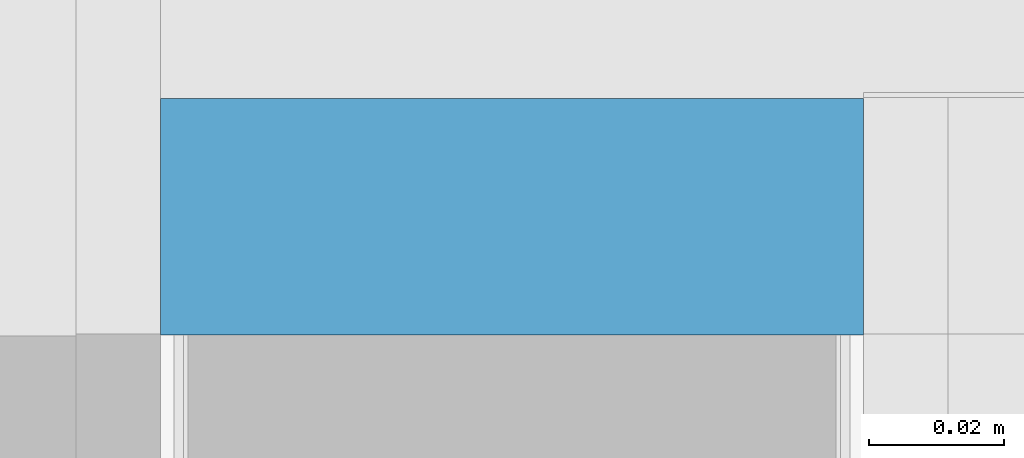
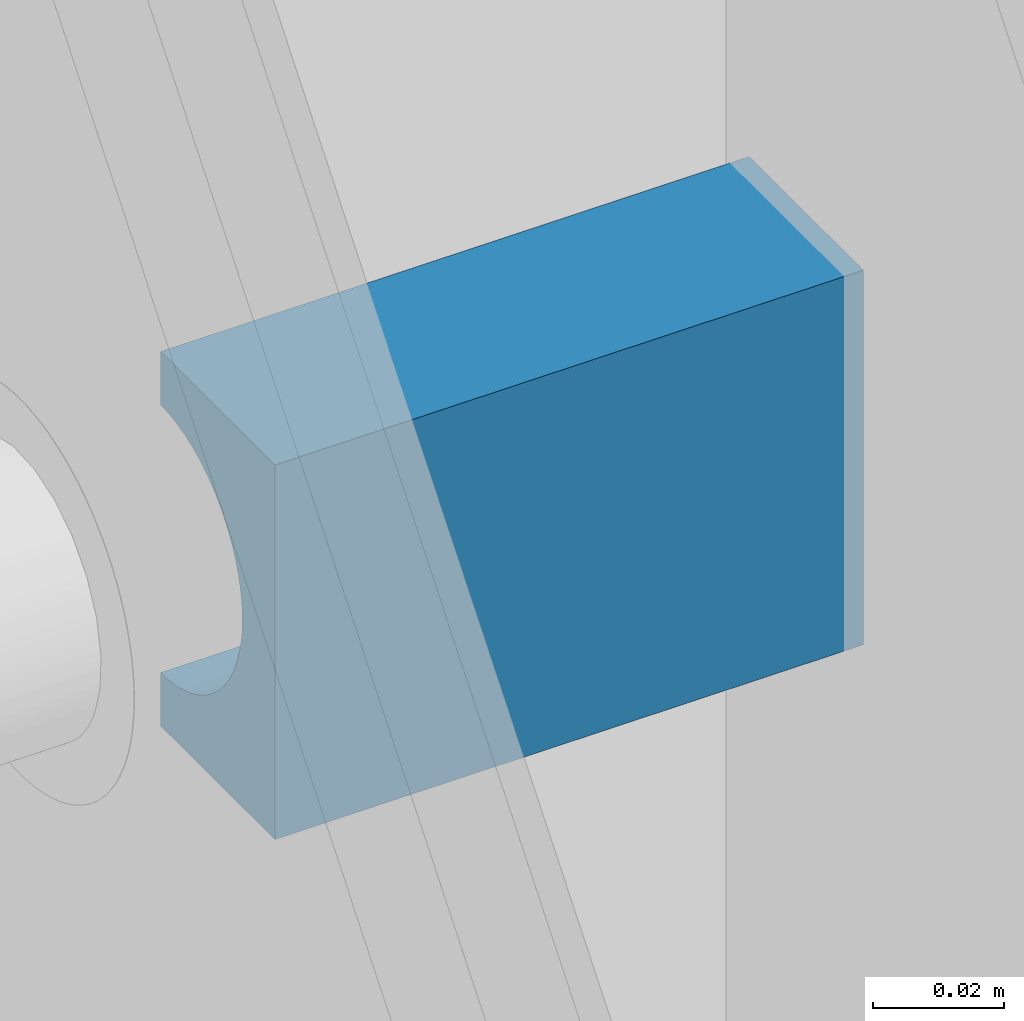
# One storey, part 7 of 92: 1 wall.
"""IFC2X3 building model written with IfcOpenShell, lengths in millimetres."""

import ifcopenshell
import ifcopenshell.guid

model = None  # the IFC model being written
_history = None  # IfcOwnerHistory: only IFC2X3 demands one
_inside = {}  # id of a spatial element -> (the spatial element, [elements in it])
_under = {}  # id of a project, library or spatial element -> (it, [spatial elements below it])
_declared = {}  # id of a project -> (the project, [libraries it declares])
_typed = {}  # id of a type object -> (the type object, [elements of that type])
_made_of = {}  # id of a material, layer set ... -> (it, [elements and type objects made of it])


def new_model(schema):
    """Start an empty IFC model of exactly this schema.

    Asked for "IFC4X3", IfcOpenShell would pick the latest addendum, in which some entities
    have other attributes; the version numbers below select the first issue.
    IFC2X3 requires an IfcOwnerHistory on every rooted entity: one is made here for all.
    """
    global model, _history
    if schema == "IFC4X3":
        model = ifcopenshell.file(schema_version=(4, 3, 0, 0))
    else:
        model = ifcopenshell.file(schema=schema)
    _inside.clear()
    _under.clear()
    _declared.clear()
    _typed.clear()
    _made_of.clear()
    _history = None
    if model.schema == "IFC2X3":
        org = make("IfcOrganization", Name="unknown")
        user = make(
            "IfcPersonAndOrganization",
            ThePerson=make("IfcPerson", FamilyName="unknown"),
            TheOrganization=org,
        )
        app = make(
            "IfcApplication",
            ApplicationDeveloper=org,
            Version="unknown",
            ApplicationFullName="unknown",
            ApplicationIdentifier="unknown",
        )
        _history = make(
            "IfcOwnerHistory",
            OwningUser=user,
            OwningApplication=app,
            ChangeAction="ADDED",
            CreationDate=0,
        )
    return model


def make(cls, **values):
    """One entity of the class cls with the attributes given. An attribute that is None is left unset."""
    return model.create_entity(
        cls, **{name: value for name, value in values.items() if value is not None}
    )


def rooted(cls, **values):
    """An entity with a GlobalId (a new one), such as an element, a storey or a relation."""
    return make(cls, GlobalId=ifcopenshell.guid.new(), OwnerHistory=_history, **values)


def si_unit(unit_type, name, prefix=None):
    """IfcSIUnit, for example si_unit("LENGTHUNIT", "METRE", prefix="MILLI")."""
    return make("IfcSIUnit", UnitType=unit_type, Prefix=prefix, Name=name)


def assignment(units):
    """IfcUnitAssignment: the units of a project."""
    return None if units is None else make("IfcUnitAssignment", Units=units)


def point(xyz):
    """IfcCartesianPoint."""
    return None if xyz is None else make("IfcCartesianPoint", Coordinates=xyz)


def direction(xyz):
    """IfcDirection."""
    return None if xyz is None else make("IfcDirection", DirectionRatios=xyz)


def frame(location, z_axis=None, x_axis=None):
    """IfcAxis2Placement3D, a coordinate frame: its origin and axes. An axis left out is left unset."""
    return make(
        "IfcAxis2Placement3D",
        Location=point(location),
        Axis=direction(z_axis),
        RefDirection=direction(x_axis),
    )


def origin_with_axes():
    """The frame at (0, 0, 0) with the z axis (0, 0, 1) and the x axis (1, 0, 0) written out."""
    return frame((0.0, 0.0, 0.0), z_axis=(0.0, 0.0, 1.0), x_axis=(1.0, 0.0, 0.0))


def place(relative_to, where):
    """IfcLocalPlacement: puts the frame where relative to a parent placement (None: the world)."""
    return make(
        "IfcLocalPlacement", PlacementRelTo=relative_to, RelativePlacement=where
    )


def context(
    kind, dimensions, precision=None, world=None, true_north=None, identifier=None
):
    """IfcGeometricRepresentationContext, for example the 3D "Model" context."""
    return make(
        "IfcGeometricRepresentationContext",
        ContextIdentifier=identifier,
        ContextType=kind,
        CoordinateSpaceDimension=dimensions,
        Precision=precision,
        WorldCoordinateSystem=world,
        TrueNorth=true_north,
    )


def subcontext(parent, identifier, kind, view, scale=None):
    """IfcGeometricRepresentationSubContext, for example "Body" below "Model"."""
    return make(
        "IfcGeometricRepresentationSubContext",
        ContextIdentifier=identifier,
        ContextType=kind,
        ParentContext=parent,
        TargetScale=scale,
        TargetView=view,
    )


def project(units=None, contexts=None):
    """IfcProject with its units and contexts."""
    return rooted(
        "IfcProject",
        Name="project",
        RepresentationContexts=contexts,
        UnitsInContext=assignment(units),
    )


def spatial(cls, under=None, at=None, **own):
    """A site, building, storey or space (cls), placed at a placement, below another one or the project."""
    s = rooted(cls, ObjectPlacement=at, **own)
    if under is not None:
        _under.setdefault(under.id(), (under, []))[1].append(s)
    return s


def faces_of(points, faces, orient=None, outer=None):
    """IfcFace entities. A face is a list of loops; a loop is a list of indices into points, from 0.

    orient and outer hold one flag for each loop. By default every Orientation is true, the
    first loop of a face is its IfcFaceOuterBound and the others are IfcFaceBound.
    """
    made = []
    for i, loops in enumerate(faces):
        bounds = []
        for j, loop in enumerate(loops):
            is_outer = j == 0 if outer is None else outer[i][j]
            bounds.append(
                make(
                    "IfcFaceOuterBound" if is_outer else "IfcFaceBound",
                    Bound=make("IfcPolyLoop", Polygon=[points[k] for k in loop]),
                    Orientation=True if orient is None else orient[i][j],
                )
            )
        made.append(make("IfcFace", Bounds=bounds))
    return made


def faceted_brep(points, faces, orient=None, outer=None, voids=None):
    """IfcFacetedBrep: a solid bounded by flat faces; with voids (closed shells), ...WithVoids."""
    shared = [point(p) for p in points]
    hull = make("IfcClosedShell", CfsFaces=faces_of(shared, faces, orient, outer))
    if voids is None:
        return make("IfcFacetedBrep", Outer=hull)
    return make(
        "IfcFacetedBrepWithVoids",
        Outer=hull,
        Voids=[
            make(cls, CfsFaces=faces_of(shared, fs, o, b)) for cls, fs, o, b in voids
        ],
    )


def shape(context_of_items, identifier, shape_type, items):
    """IfcShapeRepresentation: the items that make up one representation, for example the "Body"."""
    return make(
        "IfcShapeRepresentation",
        ContextOfItems=context_of_items,
        RepresentationIdentifier=identifier,
        RepresentationType=shape_type,
        Items=items,
    )


def material(Name=None, Category=None):
    """IfcMaterial."""
    return make("IfcMaterial", Name=Name, Category=Category)


def made_of(thing, what):
    """Note that an element or type object is made of a material, layer set ...; save() writes the relation."""
    if what is not None:
        _made_of.setdefault(what.id(), (what, []))[1].append(thing)
    return thing


def type_object(cls, material=None, **own):
    """A type object (cls), such as IfcWallType, which elements share."""
    return made_of(rooted(cls, **own), material)


def element(
    cls,
    number,
    at=None,
    inside=None,
    cuts=None,
    type_object=None,
    material=None,
    context=None,
    identifier="Body",
    shape_type=None,
    held_by="IfcProductDefinitionShape",
    body=None,
    shapes=None,
    **own,
):
    """One element of the class cls, such as IfcWall. Its Tag is "e" and its number.

    at: its placement. inside: the storey or other place that contains it. cuts: it is an
    opening in that element (IfcRelVoidsElement). A single representation is given by context,
    identifier, shape_type and body (its items); several are given by shapes. held_by: the class
    of the entity that holds the representations. save() writes the other relations.
    """
    e = rooted(cls, Tag="e%d" % number, ObjectPlacement=at, **own)
    if body is not None:
        shapes = [shape(context, identifier, shape_type, body)]
    if shapes is not None:
        e.Representation = make(held_by, Representations=shapes)
    if inside is not None:
        _inside.setdefault(inside.id(), (inside, []))[1].append(e)
    if cuts is not None:
        rooted(
            "IfcRelVoidsElement", RelatingBuildingElement=cuts, RelatedOpeningElement=e
        )
    if type_object is not None:
        _typed.setdefault(type_object.id(), (type_object, []))[1].append(e)
    return made_of(e, material)


def aggregate(whole, parts):
    """IfcRelAggregates: a whole, such as a stair, and the parts it consists of."""
    return rooted("IfcRelAggregates", RelatingObject=whole, RelatedObjects=parts)


def save(model, path):
    """Write the relations noted so far, then the file.

    IfcRelAggregates (storeys below a building ...), IfcRelContainedInSpatialStructure (elements
    in a storey), IfcRelDefinesByType, IfcRelAssociatesMaterial and IfcRelDeclares: one each for
    every whole, place, type object, material and project.
    """
    for whole, parts in _under.values():
        aggregate(whole, parts)
    for where, things in _inside.values():
        rooted(
            "IfcRelContainedInSpatialStructure",
            RelatedElements=things,
            RelatingStructure=where,
        )
    for kind, things in _typed.values():
        rooted("IfcRelDefinesByType", RelatedObjects=things, RelatingType=kind)
    for what, things in _made_of.values():
        rooted("IfcRelAssociatesMaterial", RelatedObjects=things, RelatingMaterial=what)
    for by, libraries in _declared.values():
        rooted("IfcRelDeclares", RelatingContext=by, RelatedDefinitions=libraries)
    model.write(path)


model = new_model("IFC2X3")

# Units and contexts
model_context = context("Model", 3, world=origin_with_axes())
body_context = subcontext(model_context, "Body", "Model", "MODEL_VIEW")
ifc_project = project(units=[si_unit("LENGTHUNIT", "METRE", prefix="MILLI"), si_unit("AREAUNIT", "SQUARE_METRE"), si_unit("VOLUMEUNIT", "CUBIC_METRE")], contexts=[model_context])

# Site, building, storey
site_placement = place(None, origin_with_axes())
site = spatial("IfcSite", under=ifc_project, at=site_placement, Name="Default Site", CompositionType="ELEMENT")
building_placement = place(site_placement, origin_with_axes())
building = spatial("IfcBuilding", under=site, at=building_placement, Name="Default Building", CompositionType="ELEMENT")
storey_placement = place(building_placement, origin_with_axes())
storey = spatial("IfcBuildingStorey", under=building, at=storey_placement, Name="Default Building Storey", CompositionType="ELEMENT", Elevation=0.0)

# Wall
ifc_material = material(Name="D02_Buttercup_Glow")
wall_type = type_object("IfcWallType", Name="Uszczelnienie wełną mineralną ISOVER#2", PredefinedType="NOTDEFINED")
wall_placement = place(storey_placement, frame((421.0076361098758, 970.2062754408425, 570.0622550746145), z_axis=(0.0, 0.0, 1.0), x_axis=(-4.718447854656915e-16, 1.0, 0.0)))
element("IfcWall", 1, at=wall_placement, inside=storey, type_object=wall_type, material=ifc_material, Name="Uszczelnienie wełną mineralną ISOVER", context=body_context, shape_type="Brep", body=[
    faceted_brep([(60.54772242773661, 292.00000018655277, 36.86321943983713), (60.547775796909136, 396.0000025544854, 36.863214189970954), (62.018610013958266, 396.0000025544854, 36.31476059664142), (62.01855664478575, 292.00000018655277, 36.3147658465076), (59.1142282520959, 292.00000018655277, 37.50294522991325), (59.11428162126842, 396.0000025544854, 37.502939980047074), (57.723731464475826, 292.00000018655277, 38.231418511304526), (57.72378483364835, 396.0000025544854, 38.23141326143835), (56.3817197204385, 292.00000018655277, 39.04576433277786), (56.38177308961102, 396.0000025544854, 39.04575908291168), (55.09348932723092, 292.00000018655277, 39.9427688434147), (55.09354269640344, 396.0000025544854, 39.94276359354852), (53.8641243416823, 292.00000018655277, 40.91889197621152), (53.86417771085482, 396.0000025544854, 40.91888672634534), (52.69847650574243, 292.00000018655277, 41.970281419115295), (52.69852987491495, 396.0000025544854, 41.97027616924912), (51.6011460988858, 292.00000018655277, 43.09278781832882), (51.601199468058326, 396.0000025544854, 43.092782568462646), (50.57646378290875, 292.00000018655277, 44.281981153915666), (50.57651715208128, 396.0000025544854, 44.28197590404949), (49.62847351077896, 292.00000018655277, 45.53316822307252), (49.62852687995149, 396.0000025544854, 45.533162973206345), (48.760916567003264, 292.00000018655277, 46.841411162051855), (48.76096993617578, 396.0000025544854, 46.84140591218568), (47.977216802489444, 292.00000018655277, 48.201546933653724), (47.97727017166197, 396.0000025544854, 48.201541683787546), (47.2804671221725, 292.00000018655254, 49.60820770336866), (47.28052049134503, 396.0000025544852, 49.608202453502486), (46.67341727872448, 292.00000018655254, 51.0558420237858), (46.673470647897, 396.0000025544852, 51.05583677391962), (46.15846302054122, 292.00000018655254, 52.53873674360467), (46.15851638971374, 396.0000025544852, 52.538731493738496), (45.737636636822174, 292.00000018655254, 54.05103955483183), (45.7376900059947, 396.0000025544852, 54.051034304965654), (45.412598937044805, 292.00000018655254, 55.58678208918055), (45.412652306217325, 396.0000025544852, 55.586776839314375), (45.18463269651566, 292.00000018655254, 57.1399034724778), (45.18468606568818, 396.0000025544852, 57.13989822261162), (45.054637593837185, 292.00000018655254, 58.704274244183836), (45.054690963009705, 396.0000025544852, 58.70426899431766), (45.02312666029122, 292.00000018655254, 60.273720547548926), (45.023180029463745, 396.0000025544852, 60.27371529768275), (45.090224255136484, 292.00000018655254, 61.84204849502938), (45.09027762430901, 396.0000025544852, 61.842043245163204), (45.25566557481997, 292.00000018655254, 63.40306861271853), (45.25571894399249, 396.0000025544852, 63.40306336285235), (45.51879769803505, 292.00000018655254, 64.9506202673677), (45.51885106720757, 396.0000025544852, 64.95061501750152), (45.87858216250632, 292.00000018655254, 66.47859597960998), (45.87863553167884, 396.0000025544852, 66.4785907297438), (46.33359906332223, 292.00000018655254, 67.98096552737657), (46.33365243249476, 396.0000025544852, 67.98096027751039), (46.88205265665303, 292.00000018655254, 69.45179974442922), (46.88210602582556, 396.0000025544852, 69.45179449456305), (47.52177844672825, 292.00000018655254, 70.88529392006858), (47.521831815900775, 396.0000025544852, 70.8852886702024), (48.25025172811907, 292.00000018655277, 72.27579070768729), (48.250305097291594, 396.0000025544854, 72.27578545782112), (49.064597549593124, 292.00000018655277, 73.61780245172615), (49.06465091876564, 396.0000025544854, 73.61779720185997), (49.96160206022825, 292.00000018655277, 74.9060328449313), (49.96165542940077, 396.0000025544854, 74.90602759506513), (50.93772519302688, 292.00000018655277, 76.13539783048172), (50.9377785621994, 396.0000025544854, 76.13539258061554), (51.989114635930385, 292.00000018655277, 77.30104566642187), (51.989168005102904, 396.0000025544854, 77.3010404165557), (53.11162103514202, 292.00000018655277, 78.39837607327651), (53.11167440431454, 396.0000025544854, 78.39837082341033), (54.30081437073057, 292.00000018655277, 79.42305838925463), (54.3008677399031, 396.0000025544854, 79.42305313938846), (55.5520014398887, 292.00000018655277, 80.37104866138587), (55.55205480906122, 396.0000025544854, 80.3710434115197), (56.86024437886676, 292.00000018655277, 81.23860560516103), (56.86029774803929, 396.0000025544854, 81.23860035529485), (58.22038015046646, 292.00000018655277, 82.02230536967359), (58.22043351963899, 396.0000025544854, 82.02230011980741), (59.62704092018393, 292.00000018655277, 82.71905504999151), (59.62709428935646, 396.0000025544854, 82.71904980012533), (61.07467524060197, 292.00000018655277, 83.32610489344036), (61.074728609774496, 396.0000025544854, 83.32609964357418), (62.55756996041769, 292.00000018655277, 83.84105915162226), (62.55762332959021, 396.0000025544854, 83.84105390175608), (64.06987277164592, 292.00000018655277, 84.26188553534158), (64.06992614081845, 396.0000025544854, 84.2618802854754), (65.60561530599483, 292.00000018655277, 84.58692323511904), (65.60566867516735, 396.0000025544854, 84.58691798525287), (67.15873668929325, 292.00000018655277, 84.81488947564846), (67.15879005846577, 396.0000025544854, 84.81488422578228), (68.72310746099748, 292.00000018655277, 84.94488457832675), (68.72316083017, 396.0000025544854, 84.94487932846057), (70.00917769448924, 292.00000018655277, 84.97070596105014), (70.00923106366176, 396.0000025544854, 84.97070071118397), (68.157473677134, 292.00000018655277, 35.071391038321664), (68.15752704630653, 396.0000025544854, 35.07138578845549), (69.72585499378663, 396.0000025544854, 35.004288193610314), (69.7258016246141, 292.00000018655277, 35.00429344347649), (66.59645355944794, 292.00000018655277, 35.23683235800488), (66.59650692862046, 396.0000025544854, 35.236827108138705), (65.04890190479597, 292.00000018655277, 35.49996448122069), (65.04895527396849, 396.0000025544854, 35.49995923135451), (63.52092619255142, 292.00000018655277, 35.859748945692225), (63.52097956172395, 396.0000025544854, 35.85974369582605), (70.00923106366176, 396.0000025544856, 35.00997774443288), (70.00917769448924, 292.00000018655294, 35.00998299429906), (35.01883321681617, 292.00000018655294, 94.98712912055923), (35.018886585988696, 396.00000255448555, 94.98712387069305), (70.00923106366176, 396.0000025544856, 94.98712387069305), (70.00917769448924, 292.00000018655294, 94.98712912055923), (35.01883321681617, 292.00000018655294, 25.000000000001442), (35.018886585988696, 396.00000255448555, 24.999994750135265), (70.00923106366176, 396.0000025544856, 24.999994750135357), (70.00917769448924, 292.00000018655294, 25.000000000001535)], [[[0, 1, 2, 3]], [[4, 5, 1, 0]], [[6, 7, 5, 4]], [[8, 9, 7, 6]], [[10, 11, 9, 8]], [[12, 13, 11, 10]], [[14, 15, 13, 12]], [[16, 17, 15, 14]], [[18, 19, 17, 16]], [[20, 21, 19, 18]], [[22, 23, 21, 20]], [[24, 25, 23, 22]], [[26, 27, 25, 24]], [[28, 29, 27, 26]], [[30, 31, 29, 28]], [[32, 33, 31, 30]], [[34, 35, 33, 32]], [[36, 37, 35, 34]], [[38, 39, 37, 36]], [[40, 41, 39, 38]], [[42, 43, 41, 40]], [[44, 45, 43, 42]], [[46, 47, 45, 44]], [[48, 49, 47, 46]], [[50, 51, 49, 48]], [[52, 53, 51, 50]], [[54, 55, 53, 52]], [[56, 57, 55, 54]], [[58, 59, 57, 56]], [[60, 61, 59, 58]], [[62, 63, 61, 60]], [[64, 65, 63, 62]], [[66, 67, 65, 64]], [[68, 69, 67, 66]], [[70, 71, 69, 68]], [[72, 73, 71, 70]], [[74, 75, 73, 72]], [[76, 77, 75, 74]], [[78, 79, 77, 76]], [[80, 81, 79, 78]], [[82, 83, 81, 80]], [[84, 85, 83, 82]], [[86, 87, 85, 84]], [[88, 89, 87, 86]], [[90, 91, 89, 88]], [[92, 93, 94, 95]], [[96, 97, 93, 92]], [[98, 99, 97, 96]], [[100, 101, 99, 98]], [[3, 2, 101, 100]], [[95, 94, 102, 103]], [[104, 105, 106, 107]], [[108, 109, 110, 111]], [[104, 105, 109, 108]]]),
    faceted_brep([(35.01883321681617, 292.00000018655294, 25.000000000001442), (70.00917769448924, 292.00000018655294, 25.000000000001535), (70.00917769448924, 292.00000018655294, 35.00998299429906), (69.7258016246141, 292.00000018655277, 35.00429344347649), (68.157473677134, 292.00000018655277, 35.071391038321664), (66.59645355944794, 292.00000018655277, 35.23683235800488), (65.04890190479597, 292.00000018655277, 35.49996448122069), (63.52092619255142, 292.00000018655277, 35.859748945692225), (62.01855664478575, 292.00000018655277, 36.3147658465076), (60.54772242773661, 292.00000018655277, 36.86321943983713), (59.1142282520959, 292.00000018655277, 37.50294522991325), (57.723731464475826, 292.00000018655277, 38.231418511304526), (56.3817197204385, 292.00000018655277, 39.04576433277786), (55.09348932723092, 292.00000018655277, 39.9427688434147), (53.8641243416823, 292.00000018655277, 40.91889197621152), (52.69847650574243, 292.00000018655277, 41.970281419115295), (51.6011460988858, 292.00000018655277, 43.09278781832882), (50.57646378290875, 292.00000018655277, 44.281981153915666), (49.62847351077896, 292.00000018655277, 45.53316822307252), (48.760916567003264, 292.00000018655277, 46.841411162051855), (47.977216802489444, 292.00000018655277, 48.201546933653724), (47.2804671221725, 292.00000018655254, 49.60820770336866), (46.67341727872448, 292.00000018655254, 51.0558420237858), (46.15846302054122, 292.00000018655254, 52.53873674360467), (45.737636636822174, 292.00000018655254, 54.05103955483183), (45.412598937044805, 292.00000018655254, 55.58678208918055), (45.18463269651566, 292.00000018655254, 57.1399034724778), (45.054637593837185, 292.00000018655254, 58.704274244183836), (45.02312666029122, 292.00000018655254, 60.273720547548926), (45.090224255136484, 292.00000018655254, 61.84204849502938), (45.25566557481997, 292.00000018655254, 63.40306861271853), (45.51879769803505, 292.00000018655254, 64.9506202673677), (45.87858216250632, 292.00000018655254, 66.47859597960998), (46.33359906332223, 292.00000018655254, 67.98096552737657), (46.88205265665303, 292.00000018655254, 69.45179974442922), (47.52177844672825, 292.00000018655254, 70.88529392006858), (48.25025172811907, 292.00000018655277, 72.27579070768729), (49.064597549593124, 292.00000018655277, 73.61780245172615), (49.96160206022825, 292.00000018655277, 74.9060328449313), (50.93772519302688, 292.00000018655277, 76.13539783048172), (51.989114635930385, 292.00000018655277, 77.30104566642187), (53.11162103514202, 292.00000018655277, 78.39837607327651), (54.30081437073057, 292.00000018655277, 79.42305838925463), (55.5520014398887, 292.00000018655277, 80.37104866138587), (56.86024437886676, 292.00000018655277, 81.23860560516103), (58.22038015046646, 292.00000018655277, 82.02230536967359), (59.62704092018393, 292.00000018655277, 82.71905504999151), (61.07467524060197, 292.00000018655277, 83.32610489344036), (62.55756996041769, 292.00000018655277, 83.84105915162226), (64.06987277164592, 292.00000018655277, 84.26188553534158), (65.60561530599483, 292.00000018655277, 84.58692323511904), (67.15873668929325, 292.00000018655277, 84.81488947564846), (68.72310746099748, 292.00000018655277, 84.94488457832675), (70.00917769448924, 292.00000018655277, 84.97070596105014), (70.00917769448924, 292.00000018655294, 94.98712912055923), (35.01883321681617, 292.00000018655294, 94.98712912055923), (35.018886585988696, 396.00000255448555, 24.999994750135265), (70.00923106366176, 396.0000025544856, 24.999994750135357), (70.00923106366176, 396.0000025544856, 35.00997774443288), (69.72585499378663, 396.0000025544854, 35.004288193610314), (68.15752704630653, 396.0000025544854, 35.07138578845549), (66.59650692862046, 396.0000025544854, 35.236827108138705), (65.04895527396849, 396.0000025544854, 35.49995923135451), (63.52097956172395, 396.0000025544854, 35.85974369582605), (62.018610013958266, 396.0000025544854, 36.31476059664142), (60.547775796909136, 396.0000025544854, 36.863214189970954), (59.11428162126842, 396.0000025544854, 37.502939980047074), (57.72378483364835, 396.0000025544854, 38.23141326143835), (56.38177308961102, 396.0000025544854, 39.04575908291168), (55.09354269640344, 396.0000025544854, 39.94276359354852), (53.86417771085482, 396.0000025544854, 40.91888672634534), (52.69852987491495, 396.0000025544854, 41.97027616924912), (51.601199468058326, 396.0000025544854, 43.092782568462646), (50.57651715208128, 396.0000025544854, 44.28197590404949), (49.62852687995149, 396.0000025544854, 45.533162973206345), (48.76096993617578, 396.0000025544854, 46.84140591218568), (47.97727017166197, 396.0000025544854, 48.201541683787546), (47.28052049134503, 396.0000025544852, 49.608202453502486), (46.673470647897, 396.0000025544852, 51.05583677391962), (46.15851638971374, 396.0000025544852, 52.538731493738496), (45.7376900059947, 396.0000025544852, 54.051034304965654), (45.412652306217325, 396.0000025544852, 55.586776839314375), (45.18468606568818, 396.0000025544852, 57.13989822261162), (45.054690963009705, 396.0000025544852, 58.70426899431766), (45.023180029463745, 396.0000025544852, 60.27371529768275), (45.09027762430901, 396.0000025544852, 61.842043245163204), (45.25571894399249, 396.0000025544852, 63.40306336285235), (45.51885106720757, 396.0000025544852, 64.95061501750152), (45.87863553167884, 396.0000025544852, 66.4785907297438), (46.33365243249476, 396.0000025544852, 67.98096027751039), (46.88210602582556, 396.0000025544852, 69.45179449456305), (47.521831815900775, 396.0000025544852, 70.8852886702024), (48.250305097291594, 396.0000025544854, 72.27578545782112), (49.06465091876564, 396.0000025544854, 73.61779720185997), (49.96165542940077, 396.0000025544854, 74.90602759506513), (50.9377785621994, 396.0000025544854, 76.13539258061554), (51.989168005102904, 396.0000025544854, 77.3010404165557), (53.11167440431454, 396.0000025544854, 78.39837082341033), (54.3008677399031, 396.0000025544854, 79.42305313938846), (55.55205480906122, 396.0000025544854, 80.3710434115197), (56.86029774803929, 396.0000025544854, 81.23860035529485), (58.22043351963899, 396.0000025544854, 82.02230011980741), (59.62709428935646, 396.0000025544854, 82.71904980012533), (61.074728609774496, 396.0000025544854, 83.32609964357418), (62.55762332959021, 396.0000025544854, 83.84105390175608), (64.06992614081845, 396.0000025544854, 84.2618802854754), (65.60566867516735, 396.0000025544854, 84.58691798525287), (67.15879005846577, 396.0000025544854, 84.81488422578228), (68.72316083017, 396.0000025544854, 84.94487932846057), (70.00923106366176, 396.0000025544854, 84.97070071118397), (70.00923106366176, 396.0000025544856, 94.98712387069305), (35.018886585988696, 396.00000255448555, 94.98712387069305)], [[[0, 1, 2, 3, 4, 5, 6, 7, 8, 9, 10, 11, 12, 13, 14, 15, 16, 17, 18, 19, 20, 21, 22, 23, 24, 25, 26, 27, 28, 29, 30, 31, 32, 33, 34, 35, 36, 37, 38, 39, 40, 41, 42, 43, 44, 45, 46, 47, 48, 49, 50, 51, 52, 53, 54, 55]], [[56, 57, 58, 59, 60, 61, 62, 63, 64, 65, 66, 67, 68, 69, 70, 71, 72, 73, 74, 75, 76, 77, 78, 79, 80, 81, 82, 83, 84, 85, 86, 87, 88, 89, 90, 91, 92, 93, 94, 95, 96, 97, 98, 99, 100, 101, 102, 103, 104, 105, 106, 107, 108, 109, 110, 111]]]),
    faceted_brep([(70.00917769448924, 292.00000018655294, 25.000000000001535), (70.00923106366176, 396.0000025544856, 24.999994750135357), (70.00923106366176, 396.0000025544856, 35.00997774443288), (70.00917769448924, 292.00000018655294, 35.00998299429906), (70.00917769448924, 292.00000018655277, 84.97070596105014), (70.00923106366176, 396.0000025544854, 84.97070071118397), (70.00923106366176, 396.0000025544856, 94.98712387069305), (70.00917769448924, 292.00000018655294, 94.98712912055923)], [[[0, 1, 2, 3]], [[4, 5, 6, 7]]]),
])

save(model, "model.ifc")
